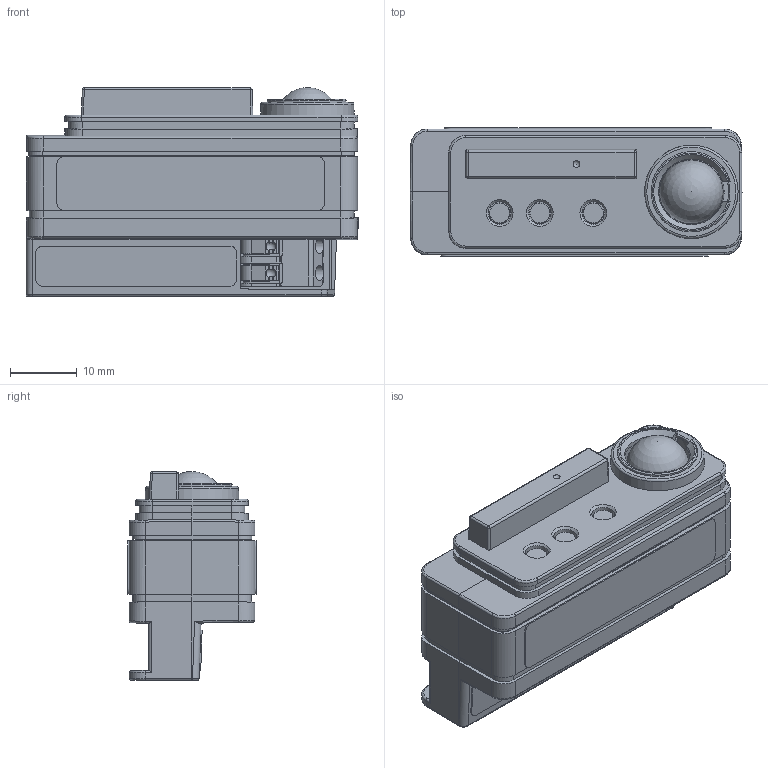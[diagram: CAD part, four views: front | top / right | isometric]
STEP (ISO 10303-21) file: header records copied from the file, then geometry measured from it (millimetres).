
FILE_DESCRIPTION(/* description */ (''),/* implementation_level */ '2;1');
FILE_NAME(/* name */ 'C:\Data\Vault\LE-TPD\9290 017 56513 _EasySense SNS210w\SNSxxx.stp',/* time_stamp */ '2019-07-16T16:41:17+02:00',/* author */ ('nly19266'),/* organization */ (''),/* preprocessor_version */ 'ST-DEVELOPER v16.5',/* originating_system */ 'Autodesk Inventor 2017',/* authorisation */ '');
FILE_SCHEMA (('AUTOMOTIVE_DESIGN { 1 0 10303 214 3 1 1 }'));
Length unit declared in the file: millimetre
Products named in the file (1): Part3
Bounding box: 49.63 x 19.2 x 31.23 mm (x, y, z)
Volume: 19112.4 mm3; surface area: 10311.9 mm2
Topology: 1 solids, 9 shells, 1374 faces, 3753 edges, 2457 vertices
Faces by surface type: plane 879, cylinder 229, bspline 163, cone 62, sphere 32, torus 9
Full cylindrical faces by diameter (mm): 2.25 x2, 8.2 x1
Entity records: 47790 total; most frequent: CARTESIAN_POINT 12328, ORIENTED_EDGE 7338, DIRECTION 6582, EDGE_CURVE 3668, LINE 2614, VECTOR 2614, VERTEX_POINT 2424, AXIS2_PLACEMENT_3D 1984
